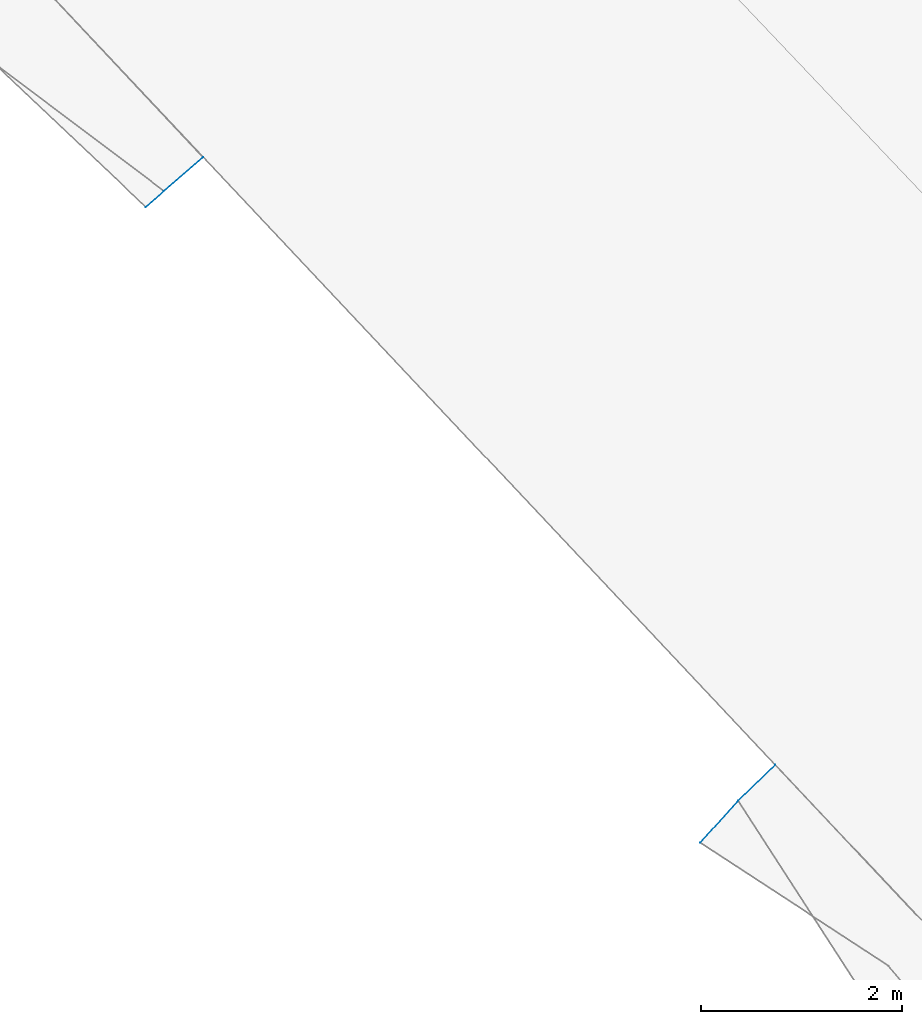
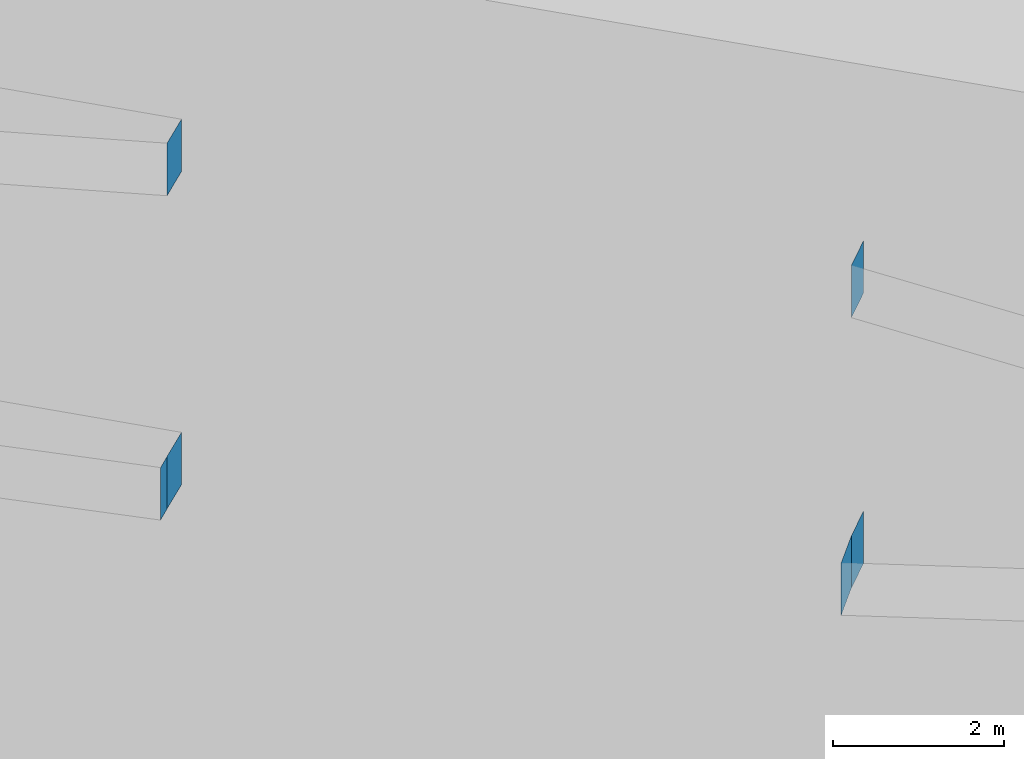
# Not in any storey, part 104 of 136: 12 walls.
"""IFC4 building model written with IfcOpenShell, lengths in metres."""

from ifc_helpers import new_model, entity, si_unit, converted_unit, frame, origin, place, context, subcontext, project, spatial, face_set, surface_model, element, save


model = new_model("IFC4")

# Units and contexts
model_context = context("Model", 3, precision=1e-05, world=origin())
body_context = subcontext(model_context, "Body", "Model", "MODEL_VIEW")
ifc_project = project(units=[converted_unit("PLANEANGLEUNIT", "DEGREE", entity("IfcRatioMeasure", 0.0174532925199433), si_unit("PLANEANGLEUNIT", "RADIAN"), dimensions=[0, 0, 0, 0, 0, 0, 0]), si_unit("AREAUNIT", "SQUARE_METRE"), si_unit("LENGTHUNIT", "METRE")], contexts=[model_context])

# Site, building
site_placement = place(None, origin())
site = spatial("IfcSite", under=ifc_project, at=site_placement, Name="_site")
building_placement = place(site_placement, origin())
building = spatial("IfcBuilding", under=site, at=building_placement, Name="_building")

# Walls
wall_1_placement = place(building_placement, origin())
element("IfcWall", 1, at=wall_1_placement, inside=building, Name="Wall", PredefinedType="NOTDEFINED", context=body_context, shape_type="SurfaceModel", body=[
    surface_model("IfcFaceBasedSurfaceModel", [(27.9, 97.74, 43.37), (27.51, 97.4, 43.37), (27.51, 97.4, 44.12), (27.9, 97.74, 44.12)], [face_set([[[0, 1, 2, 3]]])]),
])
wall_2_placement = place(building_placement, origin())
element("IfcWall", 2, at=wall_2_placement, inside=building, Name="Wall", PredefinedType="NOTDEFINED", context=body_context, shape_type="SurfaceModel", body=[
    surface_model("IfcFaceBasedSurfaceModel", [(33.24, 91.32, 43.92), (33.61, 91.68, 43.92), (33.61, 91.68, 44.67), (33.24, 91.32, 44.67)], [face_set([[[0, 1, 2, 3]]])]),
])
wall_3_placement = place(building_placement, origin())
element("IfcWall", 3, at=wall_3_placement, inside=building, Name="Wall", PredefinedType="NOTDEFINED", context=body_context, shape_type="SurfaceModel", body=[
    surface_model("IfcFaceBasedSurfaceModel", [(32.86, 90.9, 43.92), (33.24, 91.32, 43.92), (33.24, 91.32, 44.67), (32.86, 90.9, 44.67)], [face_set([[[0, 1, 2, 3]]])]),
])
wall_4_placement = place(building_placement, origin())
element("IfcWall", 4, at=wall_4_placement, inside=building, Name="Wall", PredefinedType="NOTDEFINED", context=body_context, shape_type="SurfaceModel", body=[
    surface_model("IfcFaceBasedSurfaceModel", [(33.24, 91.32, 43.92), (33.61, 91.68, 43.92), (33.61, 91.68, 44.67), (33.24, 91.32, 44.67)], [face_set([[[0, 1, 2, 3]]])]),
])
wall_5_placement = place(building_placement, origin())
element("IfcWall", 5, at=wall_5_placement, inside=building, Name="Wall", PredefinedType="NOTDEFINED", context=body_context, shape_type="SurfaceModel", body=[
    surface_model("IfcFaceBasedSurfaceModel", [(32.86, 90.9, 43.92), (33.24, 91.32, 43.92), (33.24, 91.32, 44.67), (32.86, 90.9, 44.67)], [face_set([[[0, 1, 2, 3]]])]),
])
for number, where, name in (
    (6, (0.0, 0.0, 0.0), "Wall"),
    (7, (0.0, 0.0, 0.0), "Wall"),
):
    element("IfcWall", number, at=place(building_placement, frame(where)), inside=building, Name=name, PredefinedType="NOTDEFINED", context=body_context, shape_type="SurfaceModel", body=[
        surface_model("IfcFaceBasedSurfaceModel", [(27.51, 97.4, 43.37), (27.33, 97.24, 43.37), (27.33, 97.24, 44.12), (27.51, 97.4, 44.12)], [face_set([[[0, 1, 2, 3]]])]),
    ])
wall_6_placement = place(building_placement, origin())
element("IfcWall", 8, at=wall_6_placement, inside=building, Name="Wall", PredefinedType="NOTDEFINED", context=body_context, shape_type="SurfaceModel", body=[
    surface_model("IfcFaceBasedSurfaceModel", [(27.9, 97.74, 43.37), (27.51, 97.4, 43.37), (27.51, 97.4, 44.12), (27.9, 97.74, 44.12)], [face_set([[[0, 1, 2, 3]]])]),
])
for number, where, name in (
    (9, (0.0, 0.0, 0.0), "Wall"),
    (10, (0.0, 0.0, 0.0), "Wall"),
):
    element("IfcWall", number, at=place(building_placement, frame(where)), inside=building, Name=name, PredefinedType="NOTDEFINED", context=body_context, shape_type="SurfaceModel", body=[
        surface_model("IfcFaceBasedSurfaceModel", [(33.24, 91.32, 47.78), (33.61, 91.68, 47.78), (33.61, 91.68, 48.53), (33.24, 91.32, 48.53)], [face_set([[[0, 1, 2, 3]]])]),
    ])
for number, where, name in (
    (11, (0.0, 0.0, 0.0), "Wall"),
    (12, (0.0, 0.0, 0.0), "Wall"),
):
    element("IfcWall", number, at=place(building_placement, frame(where)), inside=building, Name=name, PredefinedType="NOTDEFINED", context=body_context, shape_type="SurfaceModel", body=[
        surface_model("IfcFaceBasedSurfaceModel", [(27.9, 97.74, 47.84), (27.51, 97.4, 47.84), (27.51, 97.4, 48.59), (27.9, 97.74, 48.59)], [face_set([[[0, 1, 2, 3]]])]),
    ])

save(model, "model.ifc")
